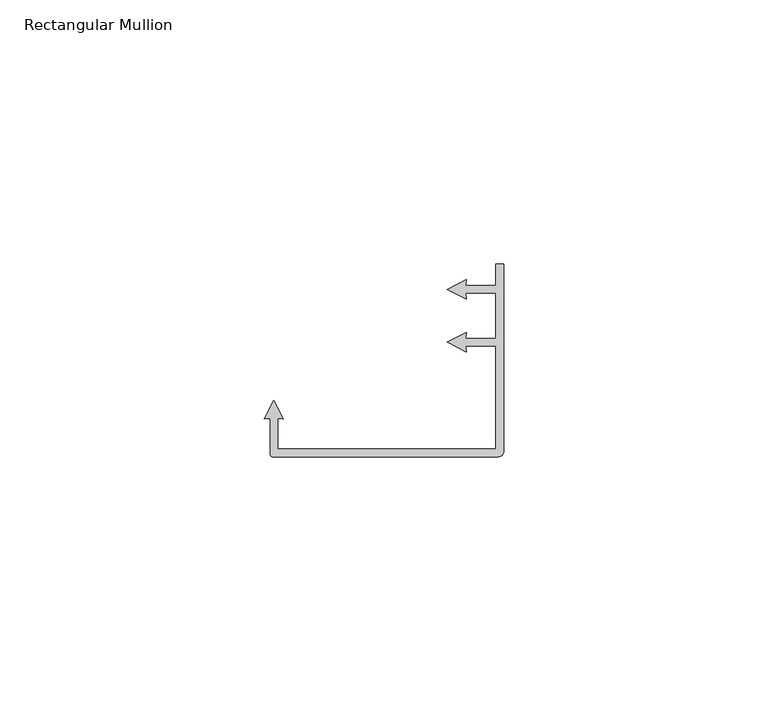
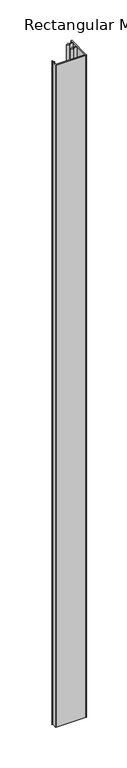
"""IFC4 building model written with IfcOpenShell, lengths in millimetres: member geometry, Rectangular Mullion : Renson_Linarte_LA-CO-03."""

import ifcopenshell
import ifcopenshell.guid

model = None  # the IFC model being written
_history = None  # IfcOwnerHistory: only IFC2X3 demands one
_inside = {}  # id of a spatial element -> (the spatial element, [elements in it])
_under = {}  # id of a project, library or spatial element -> (it, [spatial elements below it])
_declared = {}  # id of a project -> (the project, [libraries it declares])
_typed = {}  # id of a type object -> (the type object, [elements of that type])
_made_of = {}  # id of a material, layer set ... -> (it, [elements and type objects made of it])


def new_model(schema):
    """Start an empty IFC model of exactly this schema.

    Asked for "IFC4X3", IfcOpenShell would pick the latest addendum, in which some entities
    have other attributes; the version numbers below select the first issue.
    IFC2X3 requires an IfcOwnerHistory on every rooted entity: one is made here for all.
    """
    global model, _history
    if schema == "IFC4X3":
        model = ifcopenshell.file(schema_version=(4, 3, 0, 0))
    else:
        model = ifcopenshell.file(schema=schema)
    _inside.clear()
    _under.clear()
    _declared.clear()
    _typed.clear()
    _made_of.clear()
    _history = None
    if model.schema == "IFC2X3":
        org = make("IfcOrganization", Name="unknown")
        user = make(
            "IfcPersonAndOrganization",
            ThePerson=make("IfcPerson", FamilyName="unknown"),
            TheOrganization=org,
        )
        app = make(
            "IfcApplication",
            ApplicationDeveloper=org,
            Version="unknown",
            ApplicationFullName="unknown",
            ApplicationIdentifier="unknown",
        )
        _history = make(
            "IfcOwnerHistory",
            OwningUser=user,
            OwningApplication=app,
            ChangeAction="ADDED",
            CreationDate=0,
        )
    return model


def make(cls, **values):
    """One entity of the class cls with the attributes given. An attribute that is None is left unset."""
    return model.create_entity(
        cls, **{name: value for name, value in values.items() if value is not None}
    )


def rooted(cls, **values):
    """An entity with a GlobalId (a new one), such as an element, a storey or a relation."""
    return make(cls, GlobalId=ifcopenshell.guid.new(), OwnerHistory=_history, **values)


def si_unit(unit_type, name, prefix=None):
    """IfcSIUnit, for example si_unit("LENGTHUNIT", "METRE", prefix="MILLI")."""
    return make("IfcSIUnit", UnitType=unit_type, Prefix=prefix, Name=name)


def assignment(units):
    """IfcUnitAssignment: the units of a project."""
    return None if units is None else make("IfcUnitAssignment", Units=units)


def point(xyz):
    """IfcCartesianPoint."""
    return None if xyz is None else make("IfcCartesianPoint", Coordinates=xyz)


def direction(xyz):
    """IfcDirection."""
    return None if xyz is None else make("IfcDirection", DirectionRatios=xyz)


def frame(location, z_axis=None, x_axis=None):
    """IfcAxis2Placement3D, a coordinate frame: its origin and axes. An axis left out is left unset."""
    return make(
        "IfcAxis2Placement3D",
        Location=point(location),
        Axis=direction(z_axis),
        RefDirection=direction(x_axis),
    )


def frame_2d(location, x_axis=None):
    """IfcAxis2Placement2D, a coordinate frame in the plane: its origin and x axis."""
    return make(
        "IfcAxis2Placement2D", Location=point(location), RefDirection=direction(x_axis)
    )


def origin():
    """The frame at (0, 0, 0) with its axes left unset."""
    return frame((0.0, 0.0, 0.0))


def place(relative_to, where):
    """IfcLocalPlacement: puts the frame where relative to a parent placement (None: the world)."""
    return make(
        "IfcLocalPlacement", PlacementRelTo=relative_to, RelativePlacement=where
    )


def context(
    kind, dimensions, precision=None, world=None, true_north=None, identifier=None
):
    """IfcGeometricRepresentationContext, for example the 3D "Model" context."""
    return make(
        "IfcGeometricRepresentationContext",
        ContextIdentifier=identifier,
        ContextType=kind,
        CoordinateSpaceDimension=dimensions,
        Precision=precision,
        WorldCoordinateSystem=world,
        TrueNorth=true_north,
    )


def project(units=None, contexts=None):
    """IfcProject with its units and contexts."""
    return rooted(
        "IfcProject",
        Name="project",
        RepresentationContexts=contexts,
        UnitsInContext=assignment(units),
    )


def spatial(cls, under=None, at=None, **own):
    """A site, building, storey or space (cls), placed at a placement, below another one or the project."""
    s = rooted(cls, ObjectPlacement=at, **own)
    if under is not None:
        _under.setdefault(under.id(), (under, []))[1].append(s)
    return s


def polyline(points):
    """IfcPolyline through the points."""
    return make("IfcPolyline", Points=[point(p) for p in points])


def circle_curve(where, radius):
    """IfcCircle in the frame where."""
    return make("IfcCircle", Position=where, Radius=radius)


def trimmed(basis, trim1, trim2, sense, master):
    """IfcTrimmedCurve: the piece of a basis curve between two trims."""
    return make(
        "IfcTrimmedCurve",
        BasisCurve=basis,
        Trim1=trim1,
        Trim2=trim2,
        SenseAgreement=sense,
        MasterRepresentation=master,
    )


def segment(curve, same_sense, transition):
    """IfcCompositeCurveSegment."""
    return make(
        "IfcCompositeCurveSegment",
        Transition=transition,
        SameSense=same_sense,
        ParentCurve=curve,
    )


def composite_curve(segments, self_intersect=None):
    """IfcCompositeCurve: segments joined end to end."""
    return make("IfcCompositeCurve", Segments=segments, SelfIntersect=self_intersect)


def outline(outer, holes=None, kind="AREA"):
    """IfcArbitraryClosedProfileDef: a profile drawn as a closed curve; with holes, ...WithVoids."""
    if holes is None:
        return make("IfcArbitraryClosedProfileDef", ProfileType=kind, OuterCurve=outer)
    return make(
        "IfcArbitraryProfileDefWithVoids",
        ProfileType=kind,
        OuterCurve=outer,
        InnerCurves=holes,
    )


def extrude(swept, where, along, depth):
    """IfcExtrudedAreaSolid: the profile swept, set in the frame where, extruded along a direction by depth."""
    return make(
        "IfcExtrudedAreaSolid",
        SweptArea=swept,
        Position=where,
        ExtrudedDirection=direction(along),
        Depth=depth,
    )


def shape(context_of_items, identifier, shape_type, items):
    """IfcShapeRepresentation: the items that make up one representation, for example the "Body"."""
    return make(
        "IfcShapeRepresentation",
        ContextOfItems=context_of_items,
        RepresentationIdentifier=identifier,
        RepresentationType=shape_type,
        Items=items,
    )


def source(mapping_origin, context_of_items, identifier, shape_type, items):
    """IfcRepresentationMap: a shape defined once, which mapped items show again and again."""
    return make(
        "IfcRepresentationMap",
        MappingOrigin=mapping_origin,
        MappedRepresentation=shape(context_of_items, identifier, shape_type, items),
    )


def transform(
    local_origin,
    x_axis=None,
    y_axis=None,
    z_axis=None,
    scale=None,
    scale2=None,
    scale3=None,
    uniform=True,
):
    """IfcCartesianTransformationOperator3D, or its non-uniform kind. x_axis, y_axis, z_axis: its Axis1, 2, 3."""
    if uniform:
        return make(
            "IfcCartesianTransformationOperator3D",
            Axis1=direction(x_axis),
            Axis2=direction(y_axis),
            LocalOrigin=point(local_origin),
            Scale=scale,
            Axis3=direction(z_axis),
        )
    return make(
        "IfcCartesianTransformationOperator3DnonUniform",
        Axis1=direction(x_axis),
        Axis2=direction(y_axis),
        LocalOrigin=point(local_origin),
        Scale=scale,
        Axis3=direction(z_axis),
        Scale2=scale2,
        Scale3=scale3,
    )


def mapped(mapping_source, mapping_target):
    """IfcMappedItem: shows the shape of a source again, moved by a transform."""
    return make(
        "IfcMappedItem", MappingSource=mapping_source, MappingTarget=mapping_target
    )


def made_of(thing, what):
    """Note that an element or type object is made of a material, layer set ...; save() writes the relation."""
    if what is not None:
        _made_of.setdefault(what.id(), (what, []))[1].append(thing)
    return thing


def element(
    cls,
    number,
    at=None,
    inside=None,
    cuts=None,
    type_object=None,
    material=None,
    context=None,
    identifier="Body",
    shape_type=None,
    held_by="IfcProductDefinitionShape",
    body=None,
    shapes=None,
    **own,
):
    """One element of the class cls, such as IfcWall. Its Tag is "e" and its number.

    at: its placement. inside: the storey or other place that contains it. cuts: it is an
    opening in that element (IfcRelVoidsElement). A single representation is given by context,
    identifier, shape_type and body (its items); several are given by shapes. held_by: the class
    of the entity that holds the representations. save() writes the other relations.
    """
    e = rooted(cls, Tag="e%d" % number, ObjectPlacement=at, **own)
    if body is not None:
        shapes = [shape(context, identifier, shape_type, body)]
    if shapes is not None:
        e.Representation = make(held_by, Representations=shapes)
    if inside is not None:
        _inside.setdefault(inside.id(), (inside, []))[1].append(e)
    if cuts is not None:
        rooted(
            "IfcRelVoidsElement", RelatingBuildingElement=cuts, RelatedOpeningElement=e
        )
    if type_object is not None:
        _typed.setdefault(type_object.id(), (type_object, []))[1].append(e)
    return made_of(e, material)


def aggregate(whole, parts):
    """IfcRelAggregates: a whole, such as a stair, and the parts it consists of."""
    return rooted("IfcRelAggregates", RelatingObject=whole, RelatedObjects=parts)


def save(model, path):
    """Write the relations noted so far, then the file.

    IfcRelAggregates (storeys below a building ...), IfcRelContainedInSpatialStructure (elements
    in a storey), IfcRelDefinesByType, IfcRelAssociatesMaterial and IfcRelDeclares: one each for
    every whole, place, type object, material and project.
    """
    for whole, parts in _under.values():
        aggregate(whole, parts)
    for where, things in _inside.values():
        rooted(
            "IfcRelContainedInSpatialStructure",
            RelatedElements=things,
            RelatingStructure=where,
        )
    for kind, things in _typed.values():
        rooted("IfcRelDefinesByType", RelatedObjects=things, RelatingType=kind)
    for what, things in _made_of.values():
        rooted("IfcRelAssociatesMaterial", RelatedObjects=things, RelatingMaterial=what)
    for by, libraries in _declared.values():
        rooted("IfcRelDeclares", RelatingContext=by, RelatedDefinitions=libraries)
    model.write(path)


def rectangular_mullion_7a3c55a6(model_context):
    return source(origin(), model_context, "Body", "SweptSolid", [
        extrude(outline(composite_curve([segment(polyline([(-1.0, -36.5479727), (-43.6999989, -36.5479727)]), True, "CONTINUOUS"), segment(trimmed(circle_curve(frame_2d((-43.6999989, -36.0479727)), 0.5), [point((-43.6999989, -36.5479727))], [point((-44.1999989, -36.0479727))], False, "CARTESIAN"), True, "CONTINUOUS"), segment(polyline([(-44.1999989, -36.0479727), (-44.1999989, -29.3139457), (-45.3157367, -29.4115601), (-43.5, -25.8479727), (-41.6842633, -29.4115602), (-42.8000002, -29.3139459), (-42.8000002, -35.0479727), (-1.5, -35.0479727), (-1.5, -15.5479716), (-7.234027, -15.5479716), (-7.1364126, -16.6637093), (-10.7, -14.8479727), (-7.1364125, -13.032236), (-7.2340268, -14.1479729), (-1.5, -14.1479729), (-1.5, -5.5479725), (-7.2340269, -5.5479725), (-7.1364126, -6.6637094), (-10.7, -4.8479727), (-7.1364125, -3.032236), (-7.2340269, -4.1479738), (-1.5, -4.1479738), (-1.5, -0.0605703), (0.0, -0.0605703), (0.0, -35.5479727)]), True, "CONTINUOUS"), segment(trimmed(circle_curve(frame_2d((-1.0, -35.5479727)), 1.0), [point((0.0, -35.5479727))], [point((-1.0, -36.5479727))], False, "CARTESIAN"), True, "CONTINUOUS")], self_intersect=False)), frame((0.0, 0.0, -1000.0), z_axis=(0.0, 0.0, 1.0), x_axis=(1.0, 0.0, 0.0)), (0.0, 0.0, 1.0), 1000.0),
    ])


if __name__ == "__main__":
    model = new_model("IFC4")
    model_context = context("Model", 3, world=origin())
    ifc_project = project(units=[si_unit("LENGTHUNIT", "METRE", prefix="MILLI")], contexts=[model_context])
    site = spatial("IfcSite", under=ifc_project)
    building = spatial("IfcBuilding", under=site)
    placement = place(None, origin())
    rectangular_mullion_shape = rectangular_mullion_7a3c55a6(model_context)
    element("IfcMember", 1, ObjectType="Rectangular Mullion : Renson_Linarte_LA-CO-03", at=placement, inside=building, context=model_context, shape_type="MappedRepresentation", body=[
        mapped(rectangular_mullion_shape, transform((0.0, 0.0, 0.0), x_axis=(1.0, 0.0, 0.0), y_axis=(0.0, 1.0, 0.0), z_axis=(0.0, 0.0, 1.0))),
    ])
    save(model, "model.ifc")
